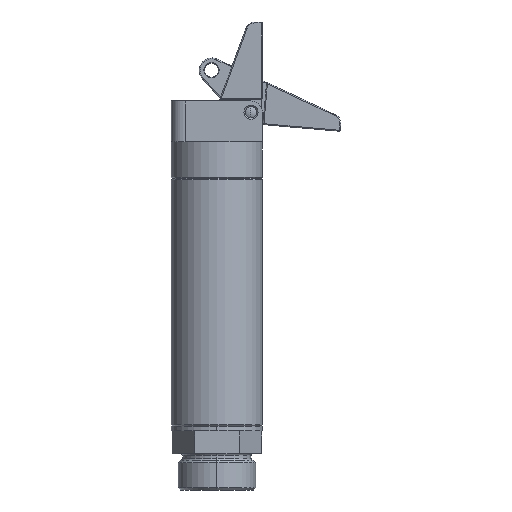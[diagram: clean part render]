
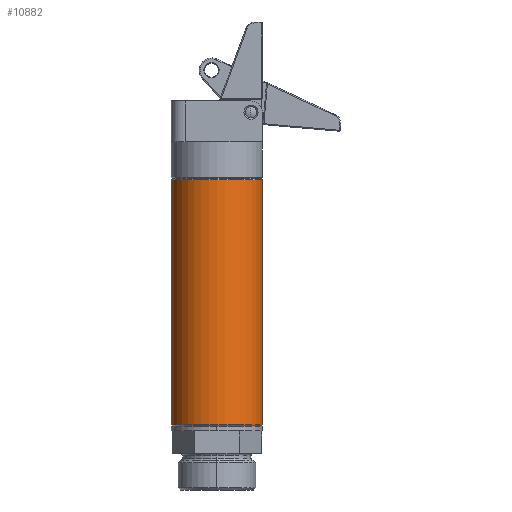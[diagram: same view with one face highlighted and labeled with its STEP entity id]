
A CAD part, front view. The second image highlights one B-rep face of the part: STEP entity #10882.
In plain terms, the highlighted cylindrical face has radius 10 mm (diameter 20 mm), a partial arc.
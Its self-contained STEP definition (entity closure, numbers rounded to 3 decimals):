
#43 = VERTEX_POINT ( 'NONE', #12302 ) ;
#496 = DIRECTION ( 'NONE',  ( 1., 0., 0. ) ) ;
#1006 = ORIENTED_EDGE ( 'NONE', *, *, #22041, .T. ) ;
#1172 = VERTEX_POINT ( 'NONE', #14851 ) ;
#2280 = CARTESIAN_POINT ( 'NONE',  ( -19.273, 50., -53.925 ) ) ;
#2324 = VERTEX_POINT ( 'NONE', #10870 ) ;
#2843 = VERTEX_POINT ( 'NONE', #2280 ) ;
#3612 = CARTESIAN_POINT ( 'NONE',  ( -9.273, 60., -0.025 ) ) ;
#4005 = DIRECTION ( 'NONE',  ( 0., 0., -1. ) ) ;
#4177 = CARTESIAN_POINT ( 'NONE',  ( -19.273, 60., -0.025 ) ) ;
#4501 = CARTESIAN_POINT ( 'NONE',  ( -29.273, 60., 0.275 ) ) ;
#4659 = CIRCLE ( 'NONE', #19493, 10. ) ;
#4976 = DIRECTION ( 'NONE',  ( 0., 0., 1. ) ) ;
#4978 = CARTESIAN_POINT ( 'NONE',  ( -9.273, 60., 0.275 ) ) ;
#5949 = DIRECTION ( 'NONE',  ( 1., 0., 0. ) ) ;
#5967 = CYLINDRICAL_SURFACE ( 'NONE', #7477, 10. ) ;
#5997 = EDGE_CURVE ( 'NONE', #43, #2843, #15181, .T. ) ;
#6780 = DIRECTION ( 'NONE',  ( 0., 0., -1. ) ) ;
#7477 = AXIS2_PLACEMENT_3D ( 'NONE', #11168, #4005, #496 ) ;
#7946 = CIRCLE ( 'NONE', #17584, 10. ) ;
#8079 = ORIENTED_EDGE ( 'NONE', *, *, #10027, .T. ) ;
#8121 = CARTESIAN_POINT ( 'NONE',  ( -19.273, 60., -53.925 ) ) ;
#8185 = LINE ( 'NONE', #4978, #21775 ) ;
#8812 = ORIENTED_EDGE ( 'NONE', *, *, #13341, .F. ) ;
#9380 = LINE ( 'NONE', #4501, #22951 ) ;
#9910 = DIRECTION ( 'NONE',  ( -1., 0., 0. ) ) ;
#10027 = EDGE_CURVE ( 'NONE', #1172, #43, #9380, .T. ) ;
#10244 = ORIENTED_EDGE ( 'NONE', *, *, #10373, .T. ) ;
#10373 = EDGE_CURVE ( 'NONE', #14816, #1172, #7946, .T. ) ;
#10870 = CARTESIAN_POINT ( 'NONE',  ( -9.273, 60., -53.925 ) ) ;
#10882 = ADVANCED_FACE ( 'NONE', ( #21805 ), #5967, .T. ) ;
#11168 = CARTESIAN_POINT ( 'NONE',  ( -19.273, 60., 0.275 ) ) ;
#12302 = CARTESIAN_POINT ( 'NONE',  ( -29.273, 60., -53.925 ) ) ;
#13341 = EDGE_CURVE ( 'NONE', #14816, #2324, #8185, .T. ) ;
#14816 = VERTEX_POINT ( 'NONE', #3612 ) ;
#14851 = CARTESIAN_POINT ( 'NONE',  ( -29.273, 60., -0.025 ) ) ;
#15181 = CIRCLE ( 'NONE', #21323, 10. ) ;
#15636 = CARTESIAN_POINT ( 'NONE',  ( -19.273, 60., -53.925 ) ) ;
#15682 = ORIENTED_EDGE ( 'NONE', *, *, #5997, .T. ) ;
#15798 = EDGE_LOOP ( 'NONE', ( #10244, #8079, #15682, #1006, #8812 ) ) ;
#16632 = DIRECTION ( 'NONE',  ( 0., 0., -1. ) ) ;
#16961 = DIRECTION ( 'NONE',  ( 0., 0., -1. ) ) ;
#17443 = DIRECTION ( 'NONE',  ( -1., 0., 0. ) ) ;
#17584 = AXIS2_PLACEMENT_3D ( 'NONE', #4177, #16632, #5949 ) ;
#19493 = AXIS2_PLACEMENT_3D ( 'NONE', #8121, #20532, #9910 ) ;
#20532 = DIRECTION ( 'NONE',  ( 0., 0., 1. ) ) ;
#21323 = AXIS2_PLACEMENT_3D ( 'NONE', #15636, #4976, #17443 ) ;
#21775 = VECTOR ( 'NONE', #6780, 1000. ) ;
#21805 = FACE_OUTER_BOUND ( 'NONE', #15798, .T. ) ;
#22041 = EDGE_CURVE ( 'NONE', #2843, #2324, #4659, .T. ) ;
#22951 = VECTOR ( 'NONE', #16961, 1000. ) ;
